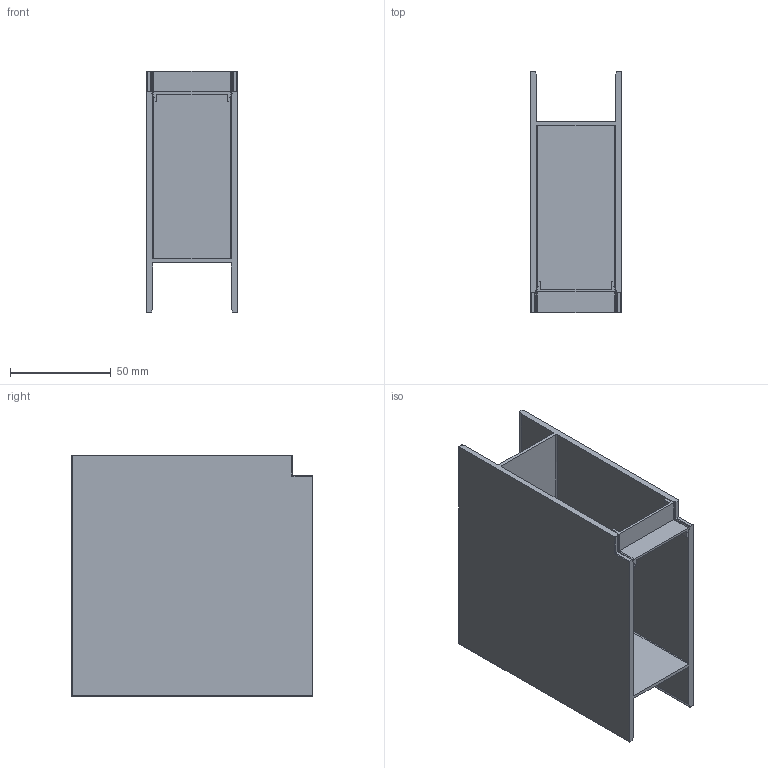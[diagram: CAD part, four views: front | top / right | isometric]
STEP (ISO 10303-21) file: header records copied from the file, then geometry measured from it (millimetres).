
FILE_DESCRIPTION(/* description */ (''),/* implementation_level */ '2;1');
FILE_NAME(/* name */ '04_x_t.stp',/* time_stamp */ '2018-03-02T11:07:52+01:00',/* author */ (''),/* organization */ (''),/* preprocessor_version */ 'ST-DEVELOPER v16',/* originating_system */ 'SIEMENS PLM Software NX 11.0',/* authorisation */ '');
FILE_SCHEMA (('AUTOMOTIVE_DESIGN { 1 0 10303 214 3 1 1 1 }'));
Length unit declared in the file: millimetre
Products named in the file (3): 04_id6_x_t; 04_id11_x_t; 04_x_t
Assembly tree (2 placements, depth 2):
  04_x_t
    04_id11_x_t
    04_id6_x_t
Bounding box: 45 x 120 x 120 mm (x, y, z)
Volume: 99926.4 mm3; surface area: 75922.6 mm2
Topology: 2 solids, 2 shells, 82 faces, 204 edges, 126 vertices
Faces by surface type: plane 50, bspline 32
Entity records: 2465 total; most frequent: CARTESIAN_POINT 607, ORIENTED_EDGE 408, DIRECTION 326, EDGE_CURVE 204, LINE 156, VECTOR 156, VERTEX_POINT 126, AXIS2_PLACEMENT_3D 85
